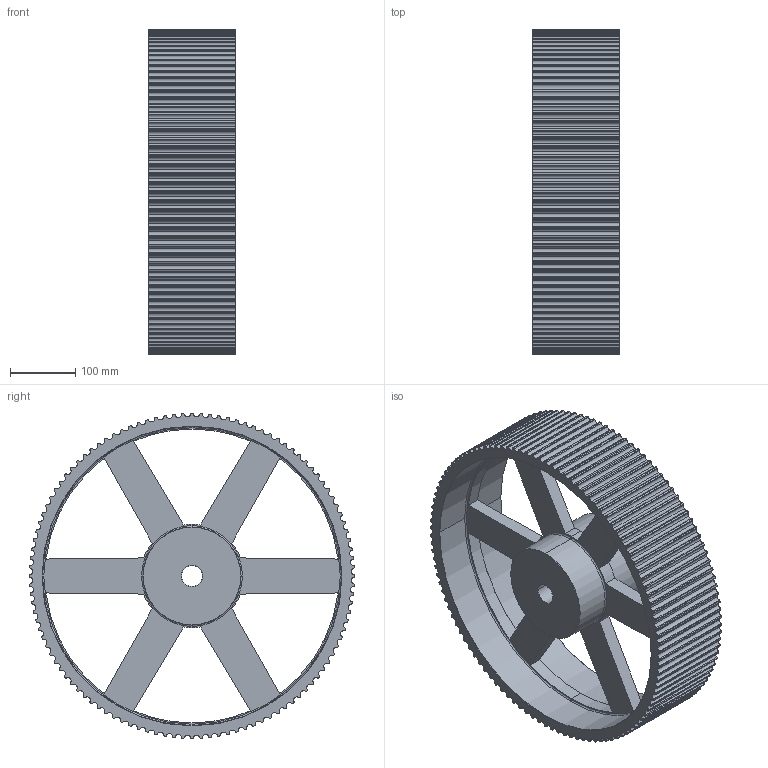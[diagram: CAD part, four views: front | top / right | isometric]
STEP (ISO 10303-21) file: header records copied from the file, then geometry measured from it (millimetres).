
FILE_DESCRIPTION(('STEP AP203'),'1');
FILE_NAME('112_-_14_m_115.stp','2021-05-14T12:15:43',('TraceParts'),('TraceParts S.A.'),'Spatial InterOp 3D',' ',' ');
FILE_SCHEMA(('CONFIG_CONTROL_DESIGN'));
Length unit declared in the file: millimetre
Products named in the file (1): 1
Bounding box: 133 x 496.32 x 496.32 mm (x, y, z)
Volume: 6704949 mm3; surface area: 756971.7 mm2
Topology: 1 solids, 1 shells, 624 faces, 1842 edges, 1224 vertices
Faces by surface type: cylinder 586, plane 18, cone 12, torus 8
Entity records: 21630 total; most frequent: DIRECTION 4300, CARTESIAN_POINT 3691, ORIENTED_EDGE 3684, EDGE_CURVE 1842, AXIS2_PLACEMENT_3D 1833, VERTEX_POINT 1224, CIRCLE 1208, EDGE_LOOP 642
